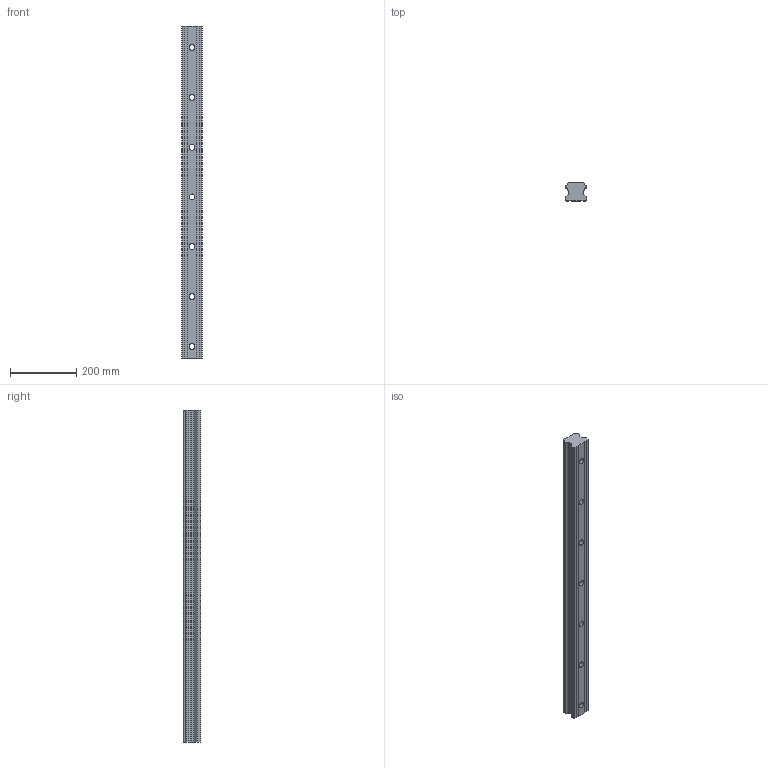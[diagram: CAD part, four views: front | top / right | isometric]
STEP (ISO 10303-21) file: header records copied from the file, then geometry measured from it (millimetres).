
FILE_DESCRIPTION (( 'STEP AP214' ), '1' );
FILE_NAME ('2.0008 Lineaarijohde HGR65R-C.STEP', '2024-04-22T07:49:04', ( '' ), ( '' ), 'SwSTEP 2.0', 'SolidWorks 2024', '' );
FILE_SCHEMA (( 'AUTOMOTIVE_DESIGN' ));
Length unit declared in the file: millimetre
Products named in the file (1): 2.0008 Lineaarijohde HGR65R-C
Bounding box: 63 x 53 x 1000 mm (x, y, z)
Volume: 2722444.4 mm3; surface area: 267044.4 mm2
Topology: 1 solids, 1 shells, 75 faces, 198 edges, 132 vertices
Faces by surface type: cylinder 38, plane 37
Entity records: 2399 total; most frequent: DIRECTION 426, CARTESIAN_POINT 406, ORIENTED_EDGE 396, EDGE_CURVE 198, AXIS2_PLACEMENT_3D 152, VERTEX_POINT 132, VECTOR 122, LINE 122
